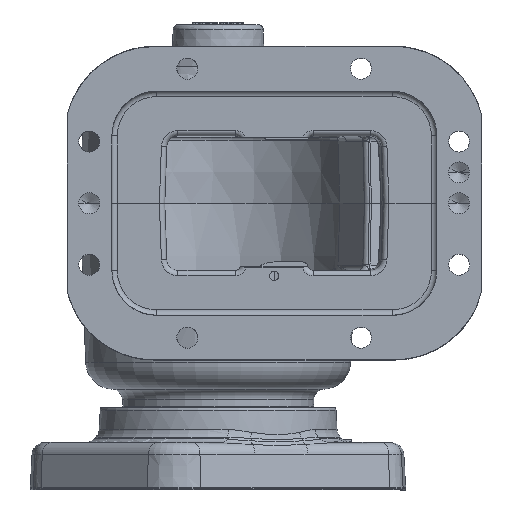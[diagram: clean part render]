
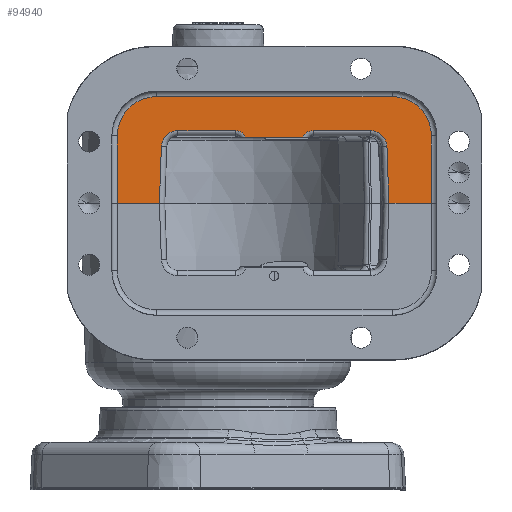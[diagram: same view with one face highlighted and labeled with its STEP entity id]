
A CAD part, front view. The second image highlights one B-rep face of the part: STEP entity #94940.
In plain terms, the highlighted planar face has unit normal (0, -1, 0).
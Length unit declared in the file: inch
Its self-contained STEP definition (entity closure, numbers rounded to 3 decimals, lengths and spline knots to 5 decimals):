
#256 = DIRECTION ( 'NONE',  ( 0., 1., 0. ) ) ;
#715 = ORIENTED_EDGE ( 'NONE', *, *, #22749, .F. ) ;
#815 = DIRECTION ( 'NONE',  ( 0., 1., 0. ) ) ;
#966 = CARTESIAN_POINT ( 'NONE',  ( -1.26291, -4.3, 3.76597 ) ) ;
#1541 = LINE ( 'NONE', #48922, #5576 ) ;
#1711 = DIRECTION ( 'NONE',  ( 0., -1., 0. ) ) ;
#4219 = DIRECTION ( 'NONE',  ( 0., 0., 1. ) ) ;
#4410 = EDGE_CURVE ( 'NONE', #83625, #51685, #48011, .T. ) ;
#4522 = AXIS2_PLACEMENT_3D ( 'NONE', #87212, #33803, #64533 ) ;
#4812 = VECTOR ( 'NONE', #43537, 39.37008 ) ;
#5004 = VERTEX_POINT ( 'NONE', #42959 ) ;
#5495 = CARTESIAN_POINT ( 'NONE',  ( 0., -4.3, -2.25 ) ) ;
#5576 = VECTOR ( 'NONE', #78655, 39.37008 ) ;
#6681 = EDGE_CURVE ( 'NONE', #5004, #56375, #68526, .T. ) ;
#7469 = CARTESIAN_POINT ( 'NONE',  ( 0., -4.3, -3.37 ) ) ;
#7471 = CARTESIAN_POINT ( 'NONE',  ( -1.62, -4.3, 3.3962 ) ) ;
#7855 = DIRECTION ( 'NONE',  ( 0., 0., -1. ) ) ;
#8342 = DIRECTION ( 'NONE',  ( 0., 0., -1. ) ) ;
#8855 = CARTESIAN_POINT ( 'NONE',  ( -1.62, -4.3, -0.8962 ) ) ;
#10274 = DIRECTION ( 'NONE',  ( 0., 0., -1. ) ) ;
#10311 = VERTEX_POINT ( 'NONE', #22799 ) ;
#10755 = ORIENTED_EDGE ( 'NONE', *, *, #6681, .F. ) ;
#13635 = LINE ( 'NONE', #68038, #98588 ) ;
#13947 = CARTESIAN_POINT ( 'NONE',  ( -1.47, -4.3, 0.60497 ) ) ;
#15742 = CARTESIAN_POINT ( 'NONE',  ( -1.5, -4.3, 4.76 ) ) ;
#15753 = ORIENTED_EDGE ( 'NONE', *, *, #57631, .F. ) ;
#15901 = CARTESIAN_POINT ( 'NONE',  ( 0., -4.3, -1.31007 ) ) ;
#17464 = CARTESIAN_POINT ( 'NONE',  ( -1.26291, -4.3, -1.26597 ) ) ;
#17534 = ORIENTED_EDGE ( 'NONE', *, *, #80828, .F. ) ;
#18014 = VECTOR ( 'NONE', #22205, 39.37008 ) ;
#20995 = EDGE_CURVE ( 'NONE', #75212, #41148, #13635, .T. ) ;
#21556 = EDGE_CURVE ( 'NONE', #5004, #58328, #49620, .T. ) ;
#22205 = DIRECTION ( 'NONE',  ( -0.999, 0., -0.035 ) ) ;
#22570 = CARTESIAN_POINT ( 'NONE',  ( -0.00419, -4.3, -1.30993 ) ) ;
#22749 = EDGE_CURVE ( 'NONE', #71544, #83625, #54218, .T. ) ;
#22799 = CARTESIAN_POINT ( 'NONE',  ( -1.5, -4.3, -2.25 ) ) ;
#23171 = VECTOR ( 'NONE', #7855, 39.37008 ) ;
#24411 = DIRECTION ( 'NONE',  ( 0., -1., 0. ) ) ;
#25546 = EDGE_CURVE ( 'NONE', #56375, #75212, #37811, .T. ) ;
#25631 = CARTESIAN_POINT ( 'NONE',  ( 0., -4.3, 4.76 ) ) ;
#26897 = CIRCLE ( 'NONE', #70345, 0.24 ) ;
#27927 = LINE ( 'NONE', #58655, #4812 ) ;
#28596 = EDGE_CURVE ( 'NONE', #62943, #81638, #1541, .T. ) ;
#29071 = EDGE_LOOP ( 'NONE', ( #37768, #79162, #35990, #44725, #10755, #98127, #98352, #78349, #97012, #96781, #77098, #64037, #15753, #37056, #715, #17534 ) ) ;
#29881 = AXIS2_PLACEMENT_3D ( 'NONE', #54711, #77395, #8342 ) ;
#32101 = VERTEX_POINT ( 'NONE', #15742 ) ;
#33565 = EDGE_CURVE ( 'NONE', #90304, #44186, #34895, .T. ) ;
#33803 = DIRECTION ( 'NONE',  ( 0., -1., 0. ) ) ;
#34895 = LINE ( 'NONE', #65642, #84929 ) ;
#35990 = ORIENTED_EDGE ( 'NONE', *, *, #20995, .F. ) ;
#37056 = ORIENTED_EDGE ( 'NONE', *, *, #4410, .F. ) ;
#37768 = ORIENTED_EDGE ( 'NONE', *, *, #33565, .F. ) ;
#37811 = CIRCLE ( 'NONE', #87662, 0.37 ) ;
#38081 = PLANE ( 'NONE',  #29881 ) ;
#38203 = LINE ( 'NONE', #7469, #46720 ) ;
#40224 = LINE ( 'NONE', #25631, #59713 ) ;
#41148 = VERTEX_POINT ( 'NONE', #71729 ) ;
#41494 = EDGE_CURVE ( 'NONE', #10311, #62943, #67576, .T. ) ;
#42801 = EDGE_CURVE ( 'NONE', #50059, #46986, #38203, .T. ) ;
#42959 = CARTESIAN_POINT ( 'NONE',  ( 0., -4.3, 3.81007 ) ) ;
#43537 = DIRECTION ( 'NONE',  ( -1., 0., 0. ) ) ;
#43968 = EDGE_CURVE ( 'NONE', #32101, #58328, #40224, .T. ) ;
#44186 = VERTEX_POINT ( 'NONE', #13947 ) ;
#44725 = ORIENTED_EDGE ( 'NONE', *, *, #25546, .F. ) ;
#45320 = AXIS2_PLACEMENT_3D ( 'NONE', #64894, #57340, #66364 ) ;
#46428 = CARTESIAN_POINT ( 'NONE',  ( -1.26291, -4.3, 3.76597 ) ) ;
#46720 = VECTOR ( 'NONE', #82579, 39.37008 ) ;
#46910 = EDGE_CURVE ( 'NONE', #81638, #32101, #79231, .T. ) ;
#46928 = CARTESIAN_POINT ( 'NONE',  ( -1.62, -4.3, -0.8962 ) ) ;
#46986 = VERTEX_POINT ( 'NONE', #15901 ) ;
#47835 = CARTESIAN_POINT ( 'NONE',  ( -1.47, -4.3, 1.89503 ) ) ;
#48011 = CIRCLE ( 'NONE', #4522, 0.37 ) ;
#48922 = CARTESIAN_POINT ( 'NONE',  ( -2.38, -4.3, 3.88 ) ) ;
#49620 = LINE ( 'NONE', #79373, #61622 ) ;
#50059 = VERTEX_POINT ( 'NONE', #5495 ) ;
#51685 = VERTEX_POINT ( 'NONE', #17464 ) ;
#52270 = CARTESIAN_POINT ( 'NONE',  ( -1.5, -4.3, -1.37 ) ) ;
#53717 = CARTESIAN_POINT ( 'NONE',  ( -1.5, -4.3, 3.88 ) ) ;
#54218 = LINE ( 'NONE', #8855, #23171 ) ;
#54711 = CARTESIAN_POINT ( 'NONE',  ( -3.5, -4.3, -3.37 ) ) ;
#56375 = VERTEX_POINT ( 'NONE', #46428 ) ;
#57340 = DIRECTION ( 'NONE',  ( 0., -1., 0. ) ) ;
#57631 = EDGE_CURVE ( 'NONE', #51685, #46986, #83526, .T. ) ;
#58328 = VERTEX_POINT ( 'NONE', #76935 ) ;
#58655 = CARTESIAN_POINT ( 'NONE',  ( -1.5, -4.3, -2.25 ) ) ;
#59713 = VECTOR ( 'NONE', #72452, 39.37008 ) ;
#60792 = DIRECTION ( 'NONE',  ( 0., 0., -1. ) ) ;
#61453 = DIRECTION ( 'NONE',  ( 0., 0., -1. ) ) ;
#61622 = VECTOR ( 'NONE', #4219, 39.37008 ) ;
#61688 = CARTESIAN_POINT ( 'NONE',  ( -1.38, -4.3, 2.11752 ) ) ;
#62256 = FACE_OUTER_BOUND ( 'NONE', #29071, .T. ) ;
#62943 = VERTEX_POINT ( 'NONE', #84370 ) ;
#63807 = EDGE_CURVE ( 'NONE', #41148, #90304, #26897, .T. ) ;
#64037 = ORIENTED_EDGE ( 'NONE', *, *, #42801, .T. ) ;
#64533 = DIRECTION ( 'NONE',  ( 0., 0., -1. ) ) ;
#64894 = CARTESIAN_POINT ( 'NONE',  ( -1.38, -4.3, 0.38248 ) ) ;
#65642 = CARTESIAN_POINT ( 'NONE',  ( -1.47, -4.3, -3.37 ) ) ;
#65912 = AXIS2_PLACEMENT_3D ( 'NONE', #52270, #815, #60792 ) ;
#66364 = DIRECTION ( 'NONE',  ( 0., 0., -1. ) ) ;
#67576 = CIRCLE ( 'NONE', #65912, 0.88 ) ;
#68038 = CARTESIAN_POINT ( 'NONE',  ( -1.62, -4.3, 2.11752 ) ) ;
#68526 = LINE ( 'NONE', #966, #18014 ) ;
#70345 = AXIS2_PLACEMENT_3D ( 'NONE', #61688, #24411, #77334 ) ;
#71544 = VERTEX_POINT ( 'NONE', #81039 ) ;
#71729 = CARTESIAN_POINT ( 'NONE',  ( -1.62, -4.3, 2.11752 ) ) ;
#72452 = DIRECTION ( 'NONE',  ( 1., 0., 0. ) ) ;
#74378 = AXIS2_PLACEMENT_3D ( 'NONE', #53717, #256, #93964 ) ;
#75212 = VERTEX_POINT ( 'NONE', #7471 ) ;
#76935 = CARTESIAN_POINT ( 'NONE',  ( 0., -4.3, 4.76 ) ) ;
#77098 = ORIENTED_EDGE ( 'NONE', *, *, #77111, .F. ) ;
#77111 = EDGE_CURVE ( 'NONE', #50059, #10311, #27927, .T. ) ;
#77334 = DIRECTION ( 'NONE',  ( 0., 0., -1. ) ) ;
#77395 = DIRECTION ( 'NONE',  ( 0., 1., 0. ) ) ;
#78349 = ORIENTED_EDGE ( 'NONE', *, *, #46910, .F. ) ;
#78655 = DIRECTION ( 'NONE',  ( 0., 0., 1. ) ) ;
#79162 = ORIENTED_EDGE ( 'NONE', *, *, #63807, .F. ) ;
#79231 = CIRCLE ( 'NONE', #74378, 0.88 ) ;
#79373 = CARTESIAN_POINT ( 'NONE',  ( 0., -4.3, -3.37 ) ) ;
#80828 = EDGE_CURVE ( 'NONE', #44186, #71544, #98400, .T. ) ;
#81039 = CARTESIAN_POINT ( 'NONE',  ( -1.62, -4.3, 0.38248 ) ) ;
#81638 = VERTEX_POINT ( 'NONE', #93291 ) ;
#82579 = DIRECTION ( 'NONE',  ( 0., 0., 1. ) ) ;
#83022 = DIRECTION ( 'NONE',  ( 0.999, 0., -0.035 ) ) ;
#83526 = LINE ( 'NONE', #22570, #87828 ) ;
#83625 = VERTEX_POINT ( 'NONE', #46928 ) ;
#84370 = CARTESIAN_POINT ( 'NONE',  ( -2.38, -4.3, -1.37 ) ) ;
#84929 = VECTOR ( 'NONE', #10274, 39.37008 ) ;
#87212 = CARTESIAN_POINT ( 'NONE',  ( -1.25, -4.3, -0.8962 ) ) ;
#87364 = CARTESIAN_POINT ( 'NONE',  ( -1.25, -4.3, 3.3962 ) ) ;
#87662 = AXIS2_PLACEMENT_3D ( 'NONE', #87364, #1711, #93433 ) ;
#87828 = VECTOR ( 'NONE', #83022, 39.37008 ) ;
#90304 = VERTEX_POINT ( 'NONE', #47835 ) ;
#93291 = CARTESIAN_POINT ( 'NONE',  ( -2.38, -4.3, 3.88 ) ) ;
#93433 = DIRECTION ( 'NONE',  ( 0., 0., -1. ) ) ;
#93964 = DIRECTION ( 'NONE',  ( 0., 0., -1. ) ) ;
#94940 = ADVANCED_FACE ( 'NONE', ( #62256 ), #38081, .F. ) ;
#96781 = ORIENTED_EDGE ( 'NONE', *, *, #41494, .F. ) ;
#97012 = ORIENTED_EDGE ( 'NONE', *, *, #28596, .F. ) ;
#98127 = ORIENTED_EDGE ( 'NONE', *, *, #21556, .T. ) ;
#98352 = ORIENTED_EDGE ( 'NONE', *, *, #43968, .F. ) ;
#98400 = CIRCLE ( 'NONE', #45320, 0.24 ) ;
#98588 = VECTOR ( 'NONE', #61453, 39.37008 ) ;
